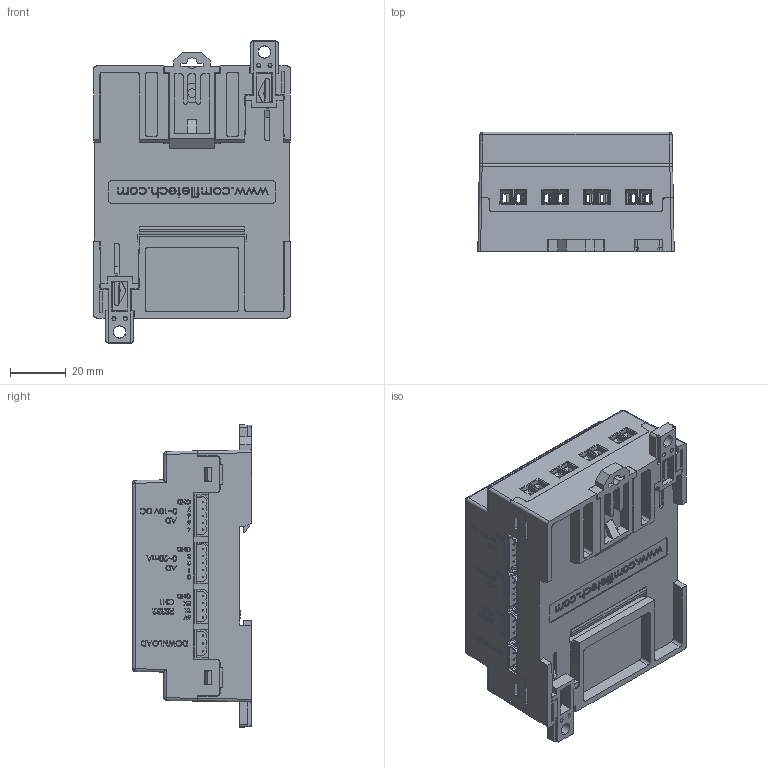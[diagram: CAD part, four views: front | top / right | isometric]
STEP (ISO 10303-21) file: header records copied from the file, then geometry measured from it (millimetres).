
FILE_DESCRIPTION (( 'STEP AP214' ), '1' );
FILE_NAME ('MSB612RA-DC_ASM.STEP', '2016-05-19T07:09:53', ( 'Registered User' ), ( 'Microsoft Corporation' ), 'SwSTEP 2.0', 'SolidWorks 2014', '' );
FILE_SCHEMA (( 'AUTOMOTIVE_DESIGN' ));
Length unit declared in the file: millimetre
Products named in the file (1): MSB612RA-DC_ASM
Bounding box: 70.5 x 42.91 x 108.5 mm (x, y, z)
Surface area: 48669.7 mm2 (no closed solid volume)
Topology: 0 solids, 154 shells, 1717 faces, 8142 edges, 6518 vertices
Faces by surface type: plane 1280, cylinder 168, bspline 167, cone 62, torus 32, sphere 8
Entity records: 129075 total; most frequent: CARTESIAN_POINT 51024, ORIENTED_EDGE 11403, DIRECTION 9666, EDGE_CURVE 8134, VERTEX_POINT 6518, VECTOR 5536, LINE 5536, EDGE_LOOP 2113
